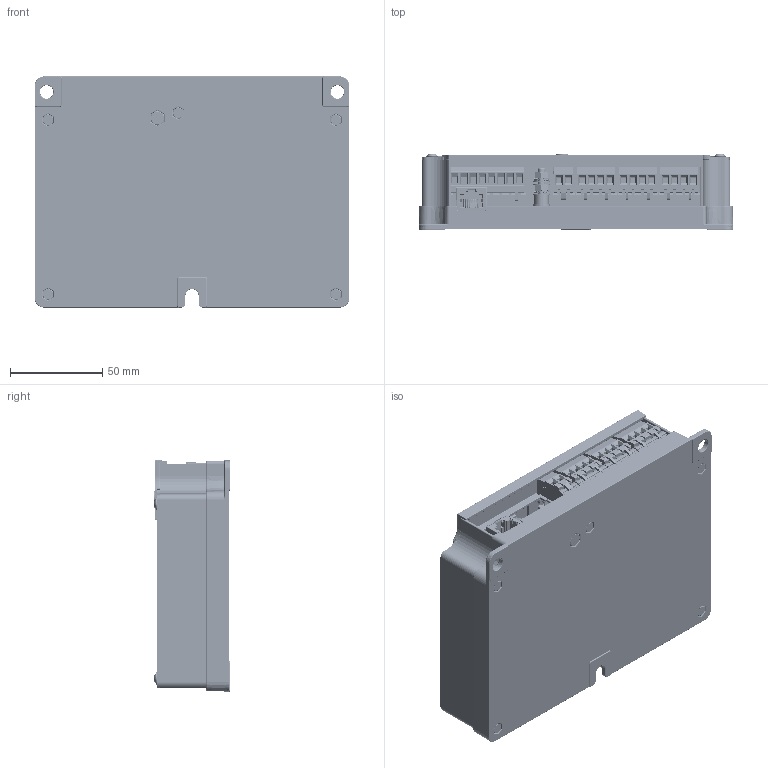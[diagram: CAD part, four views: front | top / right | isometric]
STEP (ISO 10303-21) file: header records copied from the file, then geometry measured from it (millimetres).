
FILE_DESCRIPTION (( 'STEP AP214' ), '1' );
FILE_NAME ('WIC1-1 g2 [Base Device]1.STEP', '2024-12-19T14:33:33', ( '' ), ( '' ), 'SwSTEP 2.0', 'SolidWorks 2023', '' );
FILE_SCHEMA (( 'AUTOMOTIVE_DESIGN' ));
Length unit declared in the file: millimetre
Products named in the file (1): WIC1-1 g2 [Base Device]1
Bounding box: 170 x 41.23 x 125 mm (x, y, z)
Surface area: 361532.3 mm2 (no closed solid volume)
Topology: 0 solids, 54 shells, 8230 faces, 24490 edges, 16818 vertices
Faces by surface type: plane 4285, cylinder 2710, bspline 767, cone 253, torus 145, sphere 70
Full cylindrical faces by diameter (mm): 0.2 x648, 0.3 x12, 0.457 x1, 0.5 x7, 0.6 x82, 0.85 x22, 1 x68, 1.14 x5, 1.15 x12, 1.2 x4, 1.3 x32, 1.35 x6, 1.4 x30, 1.45 x22, 1.5 x10, 1.52 x1, 1.6 x50, 1.8 x2, 2 x1, 2.5 x1, 2.76 x22, 2.8 x12, 3 x5, 3.05 x3, 3.2 x5, 3.25 x4, 3.3 x2, 3.7 x2, 3.783 x8, 3.85 x2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
Entity records: 360392 total; most frequent: CARTESIAN_POINT 84130, ORIENTED_EDGE 45736, DIRECTION 38938, EDGE_CURVE 22995, VERTEX_POINT 16718, VECTOR 13238, LINE 13238, AXIS2_PLACEMENT_3D 12850
